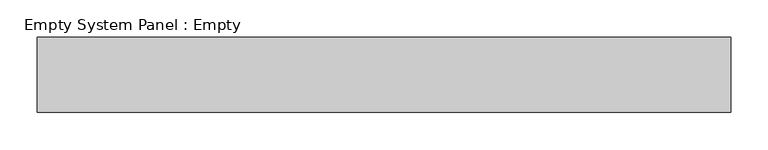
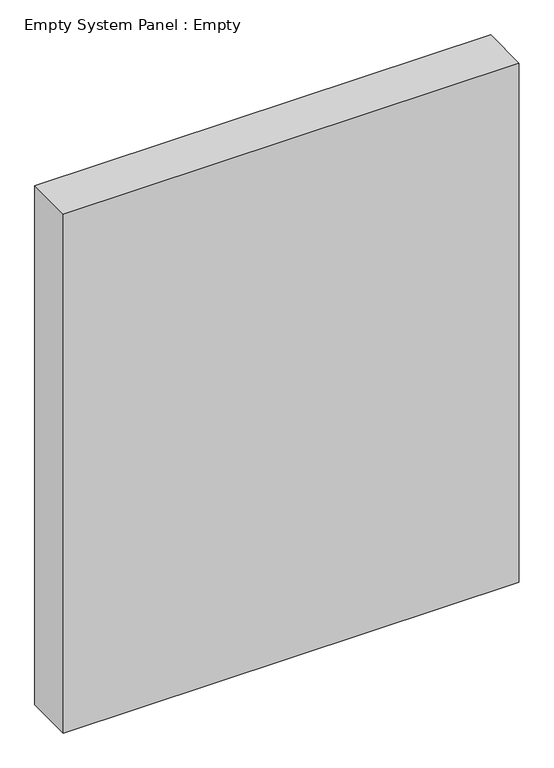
"""IFC4 building model written with IfcOpenShell, lengths in millimetres: plate geometry, Empty System Panel : Empty."""

from ifc_helpers import new_model, si_unit, origin, origin_with_axes, place, context, project, spatial, polyline, outline, extrude, source, transform, mapped, element, save


def empty_system_panel_empty_53732c6d(model_context):
    return source(origin(), model_context, "Body", "SweptSolid", [
        extrude(outline(polyline([(462.5, -50.0), (-462.5, -50.0), (-462.5, 50.0), (462.5, 50.0), (462.5, -50.0)])), origin_with_axes(), (0.0, 0.0, 1.0), 1112.5),
    ])


if __name__ == "__main__":
    model = new_model("IFC4")
    model_context = context("Model", 3, world=origin())
    ifc_project = project(units=[si_unit("LENGTHUNIT", "METRE", prefix="MILLI")], contexts=[model_context])
    site = spatial("IfcSite", under=ifc_project)
    building = spatial("IfcBuilding", under=site)
    placement = place(None, origin())
    empty_system_panel_empty_shape = empty_system_panel_empty_53732c6d(model_context)
    element("IfcPlate", 1, ObjectType="Empty System Panel : Empty", at=placement, inside=building, context=model_context, shape_type="MappedRepresentation", body=[
        mapped(empty_system_panel_empty_shape, transform((0.0, 0.0, 0.0), x_axis=(1.0, 0.0, 0.0), y_axis=(0.0, 1.0, 0.0), z_axis=(0.0, 0.0, 1.0))),
    ])
    save(model, "model.ifc")
